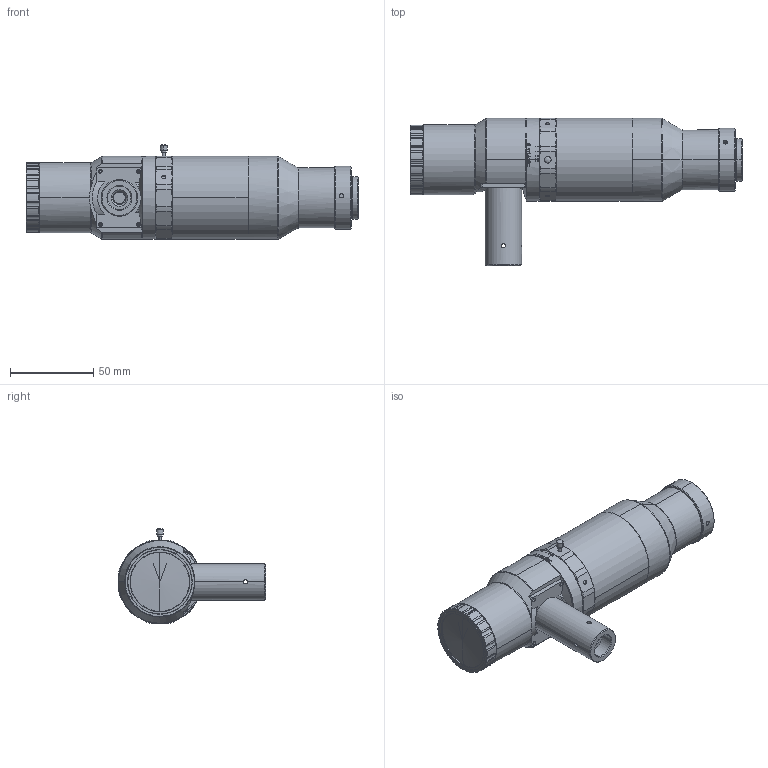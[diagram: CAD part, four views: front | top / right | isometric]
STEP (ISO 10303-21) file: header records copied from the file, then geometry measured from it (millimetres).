
FILE_DESCRIPTION (( 'STEP AP203' ), '1' );
FILE_NAME ('DTCA121-5CV2-G.STEP', '2023-09-20T07:59:31', ( '' ), ( '' ), 'SwSTEP 2.0', 'SolidWorks 2017', '' );
FILE_SCHEMA (( 'CONFIG_CONTROL_DESIGN' ));
Length unit declared in the file: millimetre
Products named in the file (1): DTCA121-5CV2-G
Bounding box: 199.64 x 88.6 x 57.08 mm (x, y, z)
Volume: 334597.5 mm3; surface area: 36809.9 mm2
Topology: 1 solids, 9 shells, 523 faces, 1294 edges, 824 vertices
Faces by surface type: cylinder 190, cone 144, plane 131, bspline 57, sphere 1
Entity records: 19197 total; most frequent: CARTESIAN_POINT 7217, ORIENTED_EDGE 2580, DIRECTION 2361, EDGE_CURVE 1290, AXIS2_PLACEMENT_3D 968, VERTEX_POINT 824, EDGE_LOOP 570, ADVANCED_FACE 523
